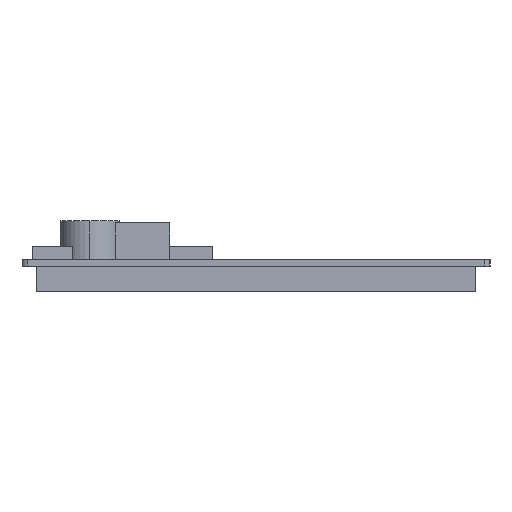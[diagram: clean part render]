
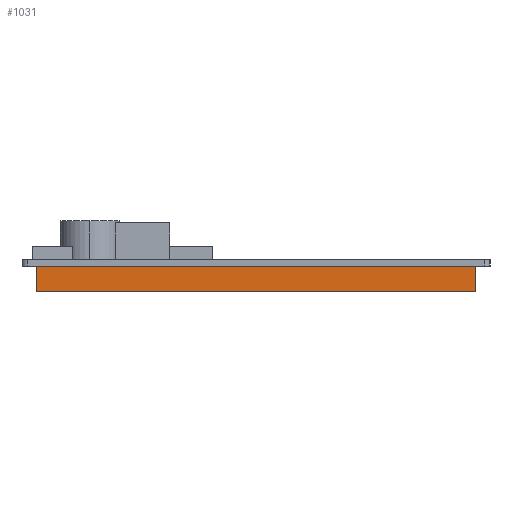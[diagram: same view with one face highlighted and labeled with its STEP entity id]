
A CAD part, left-side view. The second image highlights one B-rep face of the part: STEP entity #1031.
In plain terms, the highlighted planar face has unit normal (-1, 0, 0).
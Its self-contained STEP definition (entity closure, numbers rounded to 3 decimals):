
#207=DIRECTION('',(0.,1.,0.));
#208=VECTOR('',#207,65.9);
#209=CARTESIAN_POINT('',(-39.45,-35.15,-1.));
#210=LINE('',#209,#208);
#299=DIRECTION('',(0.,0.,-1.));
#300=VECTOR('',#299,3.75);
#301=CARTESIAN_POINT('',(-39.45,-35.15,-1.));
#302=LINE('',#301,#300);
#311=DIRECTION('',(0.,0.,-1.));
#312=VECTOR('',#311,3.75);
#313=CARTESIAN_POINT('',(-39.45,30.75,-1.));
#314=LINE('',#313,#312);
#315=DIRECTION('',(0.,1.,0.));
#316=VECTOR('',#315,65.9);
#317=CARTESIAN_POINT('',(-39.45,-35.15,-4.75));
#318=LINE('',#317,#316);
#713=CARTESIAN_POINT('',(-39.45,-35.15,-4.75));
#714=CARTESIAN_POINT('',(-39.45,30.75,-4.75));
#715=VERTEX_POINT('',#713);
#716=VERTEX_POINT('',#714);
#721=CARTESIAN_POINT('',(-39.45,-35.15,-1.));
#722=CARTESIAN_POINT('',(-39.45,30.75,-1.));
#723=VERTEX_POINT('',#721);
#724=VERTEX_POINT('',#722);
#1017=CARTESIAN_POINT('',(-39.45,-35.15,-1.));
#1018=DIRECTION('',(-1.,0.,0.));
#1019=DIRECTION('',(0.,1.,0.));
#1020=AXIS2_PLACEMENT_3D('',#1017,#1018,#1019);
#1021=PLANE('',#1020);
#1022=ORIENTED_EDGE('',*,*,#882,.F.);
#1024=ORIENTED_EDGE('',*,*,#1023,.T.);
#1026=ORIENTED_EDGE('',*,*,#1025,.T.);
#1028=ORIENTED_EDGE('',*,*,#1027,.F.);
#1029=EDGE_LOOP('',(#1022,#1024,#1026,#1028));
#1030=FACE_OUTER_BOUND('',#1029,.F.);
#882=EDGE_CURVE('',#723,#724,#210,.T.);
#1023=EDGE_CURVE('',#723,#715,#302,.T.);
#1025=EDGE_CURVE('',#715,#716,#318,.T.);
#1027=EDGE_CURVE('',#724,#716,#314,.T.);
#1031=ADVANCED_FACE('',(#1030),#1021,.T.);
